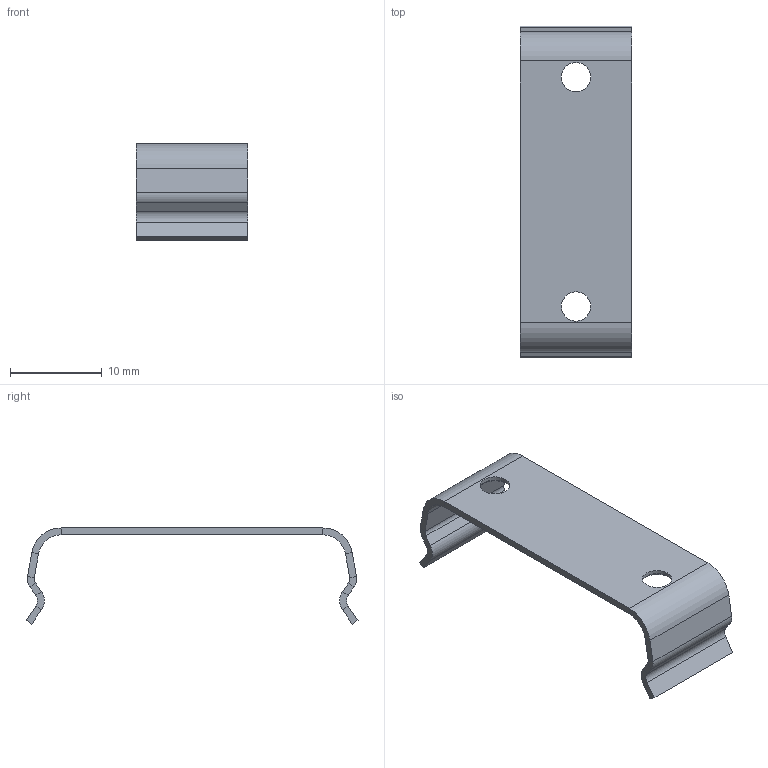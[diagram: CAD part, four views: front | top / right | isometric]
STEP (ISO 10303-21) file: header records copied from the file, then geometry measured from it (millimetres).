
FILE_DESCRIPTION(('FreeCAD Model'),'2;1');
FILE_NAME('Open CASCADE Shape Model','2026-09-03T08:57:39',('Author'),( ''),'Open CASCADE STEP processor 7.8','FreeCAD','Unknown');
FILE_SCHEMA(('AUTOMOTIVE_DESIGN { 1 0 10303 214 1 1 1 1 }'));
Length unit declared in the file: millimetre
Products named in the file (1): Din Rail Clip 35mm rail 25mm holes v3
Bounding box: 12.15 x 36.2 x 10.48 mm (x, y, z)
Volume: 470.3 mm3; surface area: 1366.5 mm2
Topology: 1 solids, 1 shells, 60 faces, 126 edges, 66 vertices
Faces by surface type: plane 42, cylinder 16, cone 2
Full cylindrical faces by diameter (mm): 3.2 x2
Entity records: 1568 total; most frequent: DIRECTION 280, CARTESIAN_POINT 263, ORIENTED_EDGE 252, EDGE_CURVE 126, AXIS2_PLACEMENT_3D 95, LINE 90, VECTOR 90, VERTEX_POINT 66
